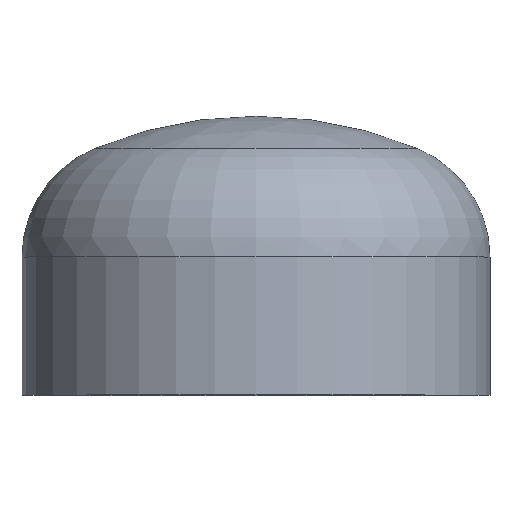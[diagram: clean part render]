
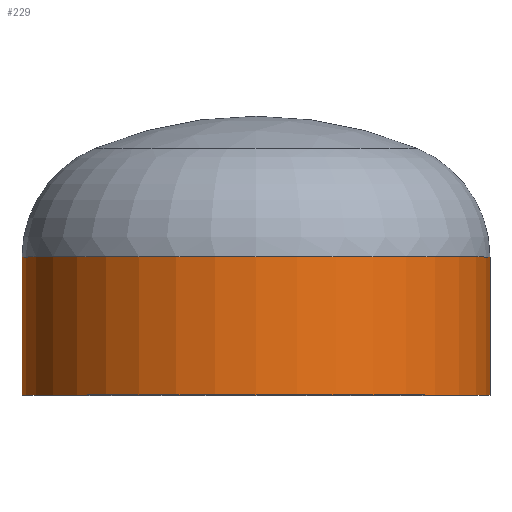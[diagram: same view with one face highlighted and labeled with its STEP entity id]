
A CAD part, top view. The second image highlights one B-rep face of the part: STEP entity #229.
In plain terms, the highlighted cylindrical face has radius 203.2 mm (diameter 406.4 mm), a partial arc.
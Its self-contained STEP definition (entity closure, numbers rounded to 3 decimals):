
#36 = AXIS2_PLACEMENT_3D ( 'NONE', #84, #121, #124 ) ;
#39 = VERTEX_POINT ( 'NONE', #293 ) ;
#40 = ORIENTED_EDGE ( 'NONE', *, *, #361, .F. ) ;
#46 = CYLINDRICAL_SURFACE ( 'NONE', #53, 203.2 ) ;
#53 = AXIS2_PLACEMENT_3D ( 'NONE', #278, #167, #203 ) ;
#84 = CARTESIAN_POINT ( 'NONE',  ( 0., 0., 0. ) ) ;
#89 = VERTEX_POINT ( 'NONE', #221 ) ;
#110 = ORIENTED_EDGE ( 'NONE', *, *, #399, .T. ) ;
#112 = ORIENTED_EDGE ( 'NONE', *, *, #378, .T. ) ;
#113 = EDGE_LOOP ( 'NONE', ( #110, #112, #129, #40 ) ) ;
#117 = VECTOR ( 'NONE', #207, 1000. ) ;
#119 = VERTEX_POINT ( 'NONE', #233 ) ;
#121 = DIRECTION ( 'NONE',  ( 0., -1., 0. ) ) ;
#124 = DIRECTION ( 'NONE',  ( 1., 0., 0. ) ) ;
#129 = ORIENTED_EDGE ( 'NONE', *, *, #362, .F. ) ;
#138 = VERTEX_POINT ( 'NONE', #324 ) ;
#148 = LINE ( 'NONE', #349, #348 ) ;
#167 = DIRECTION ( 'NONE',  ( 0., -1., 0. ) ) ;
#200 = CARTESIAN_POINT ( 'NONE',  ( 0., 120., 0. ) ) ;
#203 = DIRECTION ( 'NONE',  ( 1., 0., 0. ) ) ;
#207 = DIRECTION ( 'NONE',  ( 0., -1., 0. ) ) ;
#221 = CARTESIAN_POINT ( 'NONE',  ( -203.2, 120., 0. ) ) ;
#222 = LINE ( 'NONE', #331, #117 ) ;
#229 = ADVANCED_FACE ( 'NONE', ( #269 ), #46, .T. ) ;
#231 = DIRECTION ( 'NONE',  ( 0., -1., 0. ) ) ;
#233 = CARTESIAN_POINT ( 'NONE',  ( 203.2, 120., 0. ) ) ;
#241 = DIRECTION ( 'NONE',  ( 1., 0., 0. ) ) ;
#269 = FACE_OUTER_BOUND ( 'NONE', #113, .T. ) ;
#278 = CARTESIAN_POINT ( 'NONE',  ( 0., 0., 0. ) ) ;
#293 = CARTESIAN_POINT ( 'NONE',  ( 203.2, 0., 0. ) ) ;
#315 = AXIS2_PLACEMENT_3D ( 'NONE', #200, #373, #241 ) ;
#324 = CARTESIAN_POINT ( 'NONE',  ( -203.2, 0., 0. ) ) ;
#331 = CARTESIAN_POINT ( 'NONE',  ( -203.2, 0., 0. ) ) ;
#348 = VECTOR ( 'NONE', #231, 1000. ) ;
#349 = CARTESIAN_POINT ( 'NONE',  ( 203.2, 0., 0. ) ) ;
#361 = EDGE_CURVE ( 'NONE', #119, #39, #148, .T. ) ;
#362 = EDGE_CURVE ( 'NONE', #39, #138, #405, .T. ) ;
#373 = DIRECTION ( 'NONE',  ( 0., -1., 0. ) ) ;
#378 = EDGE_CURVE ( 'NONE', #89, #138, #222, .T. ) ;
#392 = CIRCLE ( 'NONE', #315, 203.2 ) ;
#399 = EDGE_CURVE ( 'NONE', #119, #89, #392, .T. ) ;
#405 = CIRCLE ( 'NONE', #36, 203.2 ) ;
